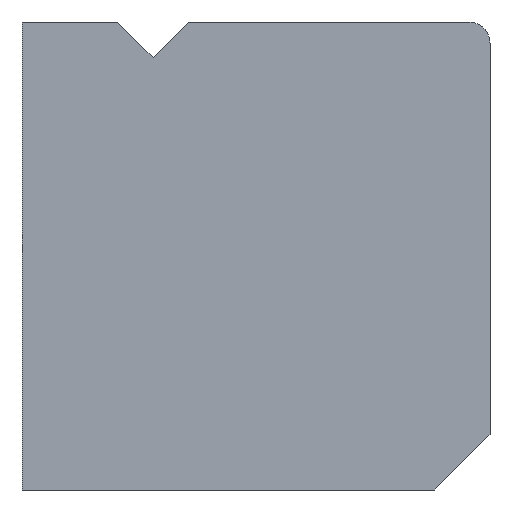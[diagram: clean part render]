
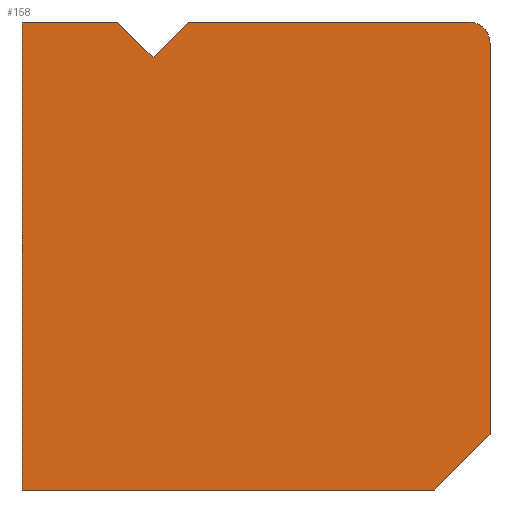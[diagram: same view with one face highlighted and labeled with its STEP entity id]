
A CAD part, left-side view. The second image highlights one B-rep face of the part: STEP entity #158.
In plain terms, the highlighted planar face has unit normal (-1, 0, 0).
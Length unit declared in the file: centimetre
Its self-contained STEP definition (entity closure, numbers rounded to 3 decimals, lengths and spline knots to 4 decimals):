
#16 = CARTESIAN_POINT ( 'NONE',  ( 0., 1000., 0. ) ) ;
#25 = AXIS2_PLACEMENT_3D ( 'NONE', #230, #544, #151 ) ;
#29 = VERTEX_POINT ( 'NONE', #701 ) ;
#89 = VECTOR ( 'NONE', #642, 100. ) ;
#115 = CARTESIAN_POINT ( 'NONE',  ( 0., 644.2319, 1000. ) ) ;
#140 = CARTESIAN_POINT ( 'NONE',  ( 0., 45.5887, 1000. ) ) ;
#145 = AXIS2_PLACEMENT_3D ( 'NONE', #335, #499, #416 ) ;
#151 = DIRECTION ( 'NONE',  ( 0., 0., -1. ) ) ;
#158 = ADVANCED_FACE ( 'NONE', ( #577 ), #562, .F. ) ;
#169 = VECTOR ( 'NONE', #935, 100. ) ;
#176 = EDGE_CURVE ( 'NONE', #286, #893, #645, .T. ) ;
#189 = ORIENTED_EDGE ( 'NONE', *, *, #386, .T. ) ;
#192 = DIRECTION ( 'NONE',  ( 0., -1., 0. ) ) ;
#199 = EDGE_CURVE ( 'NONE', #286, #485, #569, .T. ) ;
#206 = VERTEX_POINT ( 'NONE', #115 ) ;
#229 = ORIENTED_EDGE ( 'NONE', *, *, #942, .T. ) ;
#230 = CARTESIAN_POINT ( 'NONE',  ( 0., 45.5887, 954.4113 ) ) ;
#259 = VERTEX_POINT ( 'NONE', #472 ) ;
#260 = CARTESIAN_POINT ( 'NONE',  ( 0., 119.0089, 0. ) ) ;
#276 = VECTOR ( 'NONE', #638, 100. ) ;
#278 = ORIENTED_EDGE ( 'NONE', *, *, #199, .F. ) ;
#286 = VERTEX_POINT ( 'NONE', #648 ) ;
#298 = LINE ( 'NONE', #681, #538 ) ;
#299 = ORIENTED_EDGE ( 'NONE', *, *, #378, .T. ) ;
#313 = ORIENTED_EDGE ( 'NONE', *, *, #595, .F. ) ;
#318 = VECTOR ( 'NONE', #506, 100. ) ;
#333 = CARTESIAN_POINT ( 'NONE',  ( 0., 719.9725, 924.2593 ) ) ;
#335 = CARTESIAN_POINT ( 'NONE',  ( 0., 1000., 1000. ) ) ;
#352 = CARTESIAN_POINT ( 'NONE',  ( 0., 1000., 1000. ) ) ;
#355 = VERTEX_POINT ( 'NONE', #260 ) ;
#378 = EDGE_CURVE ( 'NONE', #355, #994, #402, .T. ) ;
#386 = EDGE_CURVE ( 'NONE', #259, #785, #480, .T. ) ;
#402 = LINE ( 'NONE', #464, #169 ) ;
#406 = ORIENTED_EDGE ( 'NONE', *, *, #765, .F. ) ;
#416 = DIRECTION ( 'NONE',  ( 0., 0., -1. ) ) ;
#422 = LINE ( 'NONE', #352, #986 ) ;
#456 = CARTESIAN_POINT ( 'NONE',  ( 0., 644.2319, 1000. ) ) ;
#464 = CARTESIAN_POINT ( 'NONE',  ( 0., 0., 119.0089 ) ) ;
#472 = CARTESIAN_POINT ( 'NONE',  ( 0., 0., 954.4113 ) ) ;
#473 = LINE ( 'NONE', #782, #815 ) ;
#480 = CIRCLE ( 'NONE', #25, 45.5887 ) ;
#485 = VERTEX_POINT ( 'NONE', #927 ) ;
#499 = DIRECTION ( 'NONE',  ( 1., 0., 0. ) ) ;
#506 = DIRECTION ( 'NONE',  ( 0., -1., 0. ) ) ;
#538 = VECTOR ( 'NONE', #985, 100. ) ;
#544 = DIRECTION ( 'NONE',  ( -1., 0., 0. ) ) ;
#550 = VECTOR ( 'NONE', #836, 100. ) ;
#562 = PLANE ( 'NONE',  #145 ) ;
#569 = LINE ( 'NONE', #582, #318 ) ;
#573 = ORIENTED_EDGE ( 'NONE', *, *, #969, .F. ) ;
#577 = FACE_OUTER_BOUND ( 'NONE', #885, .T. ) ;
#580 = LINE ( 'NONE', #333, #89 ) ;
#582 = CARTESIAN_POINT ( 'NONE',  ( 0., 1000., 1000. ) ) ;
#595 = EDGE_CURVE ( 'NONE', #206, #785, #422, .T. ) ;
#638 = DIRECTION ( 'NONE',  ( 0., 0., -1. ) ) ;
#642 = DIRECTION ( 'NONE',  ( 0., -0.707, -0.707 ) ) ;
#645 = LINE ( 'NONE', #874, #276 ) ;
#648 = CARTESIAN_POINT ( 'NONE',  ( 0., 1000., 1000. ) ) ;
#681 = CARTESIAN_POINT ( 'NONE',  ( 0., 0., 1000. ) ) ;
#690 = LINE ( 'NONE', #456, #550 ) ;
#701 = CARTESIAN_POINT ( 'NONE',  ( 0., 719.9725, 924.2593 ) ) ;
#735 = CARTESIAN_POINT ( 'NONE',  ( 0., 0., 119.0089 ) ) ;
#765 = EDGE_CURVE ( 'NONE', #259, #994, #298, .T. ) ;
#782 = CARTESIAN_POINT ( 'NONE',  ( 0., 1000., 0. ) ) ;
#785 = VERTEX_POINT ( 'NONE', #140 ) ;
#814 = EDGE_CURVE ( 'NONE', #29, #206, #690, .T. ) ;
#815 = VECTOR ( 'NONE', #192, 100. ) ;
#826 = ORIENTED_EDGE ( 'NONE', *, *, #176, .T. ) ;
#836 = DIRECTION ( 'NONE',  ( 0., -0.707, 0.707 ) ) ;
#874 = CARTESIAN_POINT ( 'NONE',  ( 0., 1000., 1000. ) ) ;
#885 = EDGE_LOOP ( 'NONE', ( #313, #1009, #573, #278, #826, #229, #299, #406, #189 ) ) ;
#893 = VERTEX_POINT ( 'NONE', #16 ) ;
#927 = CARTESIAN_POINT ( 'NONE',  ( 0., 795.7132, 1000. ) ) ;
#935 = DIRECTION ( 'NONE',  ( 0., -0.707, 0.707 ) ) ;
#942 = EDGE_CURVE ( 'NONE', #893, #355, #473, .T. ) ;
#964 = DIRECTION ( 'NONE',  ( 0., -1., 0. ) ) ;
#969 = EDGE_CURVE ( 'NONE', #485, #29, #580, .T. ) ;
#985 = DIRECTION ( 'NONE',  ( 0., 0., -1. ) ) ;
#986 = VECTOR ( 'NONE', #964, 100. ) ;
#994 = VERTEX_POINT ( 'NONE', #735 ) ;
#1009 = ORIENTED_EDGE ( 'NONE', *, *, #814, .F. ) ;
